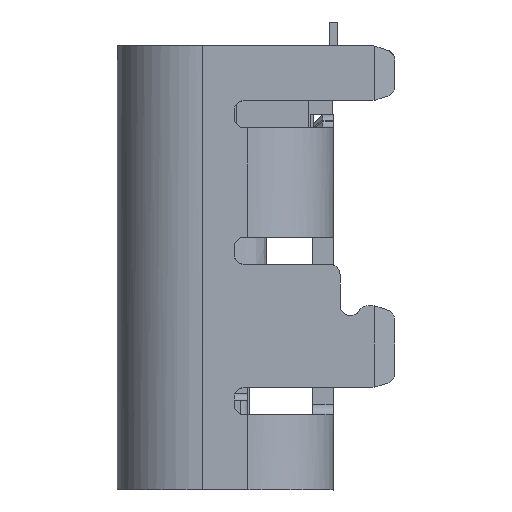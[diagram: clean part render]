
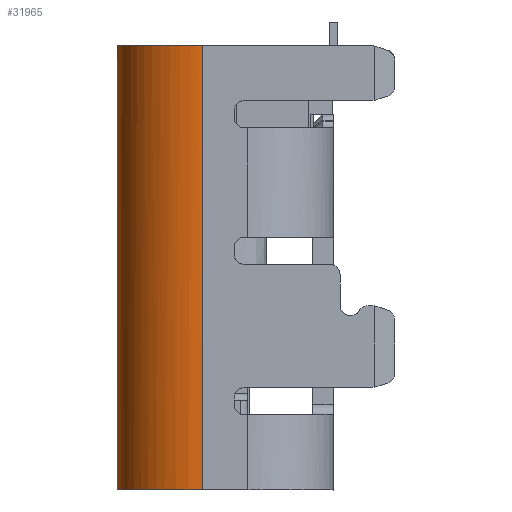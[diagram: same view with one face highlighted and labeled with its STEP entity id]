
A CAD part, left-side view. The second image highlights one B-rep face of the part: STEP entity #31965.
In plain terms, the highlighted free-form (B-spline) face has degree [1, 3] with [2, 4] control points.
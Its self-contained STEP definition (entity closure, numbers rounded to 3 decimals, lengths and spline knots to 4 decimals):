
#1893 = CARTESIAN_POINT ( 'NONE',  ( 0.9378, 2.9357, -5.25 ) ) ;
#2070 = CARTESIAN_POINT ( 'NONE',  ( 0.78, 2.3064, -11.75 ) ) ;
#4190 = CARTESIAN_POINT ( 'NONE',  ( 2.03, 3.5562, -5.25 ) ) ;
#13737 = CARTESIAN_POINT ( 'NONE',  ( 0.78, 3.0385, -5.25 ) ) ;
#15521 = CARTESIAN_POINT ( 'NONE',  ( 1.2978, 3.5562, -5.25 ) ) ;
#15613 = EDGE_LOOP ( 'NONE', ( #117664, #167233, #172330, #108773 ) ) ;
#22762 = CARTESIAN_POINT ( 'NONE',  ( 2.03, 3.5564, -11.75 ) ) ;
#24671 = EDGE_CURVE ( 'NONE', #56947, #42463, #101542, .T. ) ;
#25436 = CARTESIAN_POINT ( 'NONE',  ( 0.8125, 2.6336, -11.75 ) ) ;
#27522 = EDGE_CURVE ( 'NONE', #42463, #31600, #114532, .T. ) ;
#31600 = VERTEX_POINT ( 'NONE', #2070 ) ;
#31965 = ADVANCED_FACE ( 'NONE', ( #166039 ), #141724, .F. ) ;
#38278 = CARTESIAN_POINT ( 'NONE',  ( 0.78, 2.3064, -11.75 ) ) ;
#42000 = CARTESIAN_POINT ( 'NONE',  ( 0.78, 2.3064, -11.75 ) ) ;
#42463 = VERTEX_POINT ( 'NONE', #143733 ) ;
#43789 = CARTESIAN_POINT ( 'NONE',  ( 1.2978, 3.5564, -11.75 ) ) ;
#53025 = CARTESIAN_POINT ( 'NONE',  ( 2.03, 3.5562, -5.25 ) ) ;
#56605 = CARTESIAN_POINT ( 'NONE',  ( 2.03, 3.5562, -5.25 ) ) ;
#56947 = VERTEX_POINT ( 'NONE', #161774 ) ;
#57537 = CARTESIAN_POINT ( 'NONE',  ( 0.78, 2.3062, -5.25 ) ) ;
#58858 = EDGE_CURVE ( 'NONE', #31600, #65491, #171884, .T. ) ;
#61620 = CARTESIAN_POINT ( 'NONE',  ( 2.03, 3.5564, -11.75 ) ) ;
#64699 = CARTESIAN_POINT ( 'NONE',  ( 0.78, 2.3064, -11.75 ) ) ;
#65491 = VERTEX_POINT ( 'NONE', #134355 ) ;
#72984 = CARTESIAN_POINT ( 'NONE',  ( 0.8125, 2.6334, -5.25 ) ) ;
#78382 = CARTESIAN_POINT ( 'NONE',  ( 1.4005, 3.3986, -11.75 ) ) ;
#80336 = CARTESIAN_POINT ( 'NONE',  ( 1.8663, 3.5564, -5.25 ) ) ;
#82854 = CARTESIAN_POINT ( 'NONE',  ( 0.78, 2.3062, -5.25 ) ) ;
#84266 = EDGE_CURVE ( 'NONE', #65491, #56947, #112379, .T. ) ;
#86657 = CARTESIAN_POINT ( 'NONE',  ( 0.7798, 2.4699, -5.25 ) ) ;
#93821 = CARTESIAN_POINT ( 'NONE',  ( 1.2618, 3.306, -11.75 ) ) ;
#95611 = CARTESIAN_POINT ( 'NONE',  ( 0.7798, 2.47, -11.75 ) ) ;
#98461 = CARTESIAN_POINT ( 'NONE',  ( 0.78, 3.0386, -11.75 ) ) ;
#101542 = B_SPLINE_CURVE_WITH_KNOTS ( 'NONE', 3,
 ( #53025, #80336, #135955, #150485, #136846, #165165, #1893, #72984, #86657, #57537 ),
 .UNSPECIFIED., .F., .F.,
 ( 4, 2, 2, 2, 4 ),
 ( 0., 0.3927, 0.7854, 1.1781, 1.5708 ),
 .UNSPECIFIED. ) ;
#108773 = ORIENTED_EDGE ( 'NONE', *, *, #24671, .F. ) ;
#112379 = B_SPLINE_CURVE_WITH_KNOTS ( 'NONE', 1,
 ( #61620, #4190 ),
 .UNSPECIFIED., .F., .F.,
 ( 2, 2 ),
 ( 0., 1. ),
 .UNSPECIFIED. ) ;
#114532 = B_SPLINE_CURVE_WITH_KNOTS ( 'NONE', 1,
 ( #82854, #64699 ),
 .UNSPECIFIED., .F., .F.,
 ( 2, 2 ),
 ( 0., 1. ),
 .UNSPECIFIED. ) ;
#117664 = ORIENTED_EDGE ( 'NONE', *, *, #84266, .F. ) ;
#133963 = CARTESIAN_POINT ( 'NONE',  ( 1.8663, 3.5565, -11.75 ) ) ;
#134355 = CARTESIAN_POINT ( 'NONE',  ( 2.03, 3.5564, -11.75 ) ) ;
#134868 = CARTESIAN_POINT ( 'NONE',  ( 0.9378, 2.9359, -11.75 ) ) ;
#135955 = CARTESIAN_POINT ( 'NONE',  ( 1.7028, 3.5237, -5.25 ) ) ;
#136846 = CARTESIAN_POINT ( 'NONE',  ( 1.2618, 3.3058, -5.25 ) ) ;
#139497 = CARTESIAN_POINT ( 'NONE',  ( 0.78, 2.3062, -5.25 ) ) ;
#140395 = CARTESIAN_POINT ( 'NONE',  ( 2.03, 3.5564, -11.75 ) ) ;
#141724 =( BOUNDED_SURFACE ( )  B_SPLINE_SURFACE ( 1, 3, ( 
 ( #139497, #13737, #15521, #56605 ),
 ( #42000, #98461, #43789, #140395 ) ),
 .UNSPECIFIED., .F., .F., .F. ) 
 B_SPLINE_SURFACE_WITH_KNOTS ( ( 2, 2 ),
 ( 4, 4 ),
 ( 0.0192, 0.9808 ),
 ( 0., 1. ),
 .UNSPECIFIED. ) 
 GEOMETRIC_REPRESENTATION_ITEM ( )  RATIONAL_B_SPLINE_SURFACE ( (
 ( 1., 0.805, 0.805, 1.),
 ( 1., 0.805, 0.805, 1.) ) ) 
 REPRESENTATION_ITEM ( '' )  SURFACE ( )  );
#143733 = CARTESIAN_POINT ( 'NONE',  ( 0.78, 2.3062, -5.25 ) ) ;
#150485 = CARTESIAN_POINT ( 'NONE',  ( 1.4005, 3.3985, -5.25 ) ) ;
#161774 = CARTESIAN_POINT ( 'NONE',  ( 2.03, 3.5562, -5.25 ) ) ;
#165165 = CARTESIAN_POINT ( 'NONE',  ( 1.0304, 3.0744, -5.25 ) ) ;
#166039 = FACE_OUTER_BOUND ( 'NONE', #15613, .T. ) ;
#167233 = ORIENTED_EDGE ( 'NONE', *, *, #58858, .F. ) ;
#171884 = B_SPLINE_CURVE_WITH_KNOTS ( 'NONE', 3,
 ( #38278, #95611, #25436, #134868, #176880, #93821, #78382, #175094, #133963, #22762 ),
 .UNSPECIFIED., .F., .F.,
 ( 4, 2, 2, 2, 4 ),
 ( 0., 0.3927, 0.7854, 1.1781, 1.5708 ),
 .UNSPECIFIED. ) ;
#172330 = ORIENTED_EDGE ( 'NONE', *, *, #27522, .F. ) ;
#175094 = CARTESIAN_POINT ( 'NONE',  ( 1.7028, 3.5239, -11.75 ) ) ;
#176880 = CARTESIAN_POINT ( 'NONE',  ( 1.0304, 3.0746, -11.75 ) ) ;
